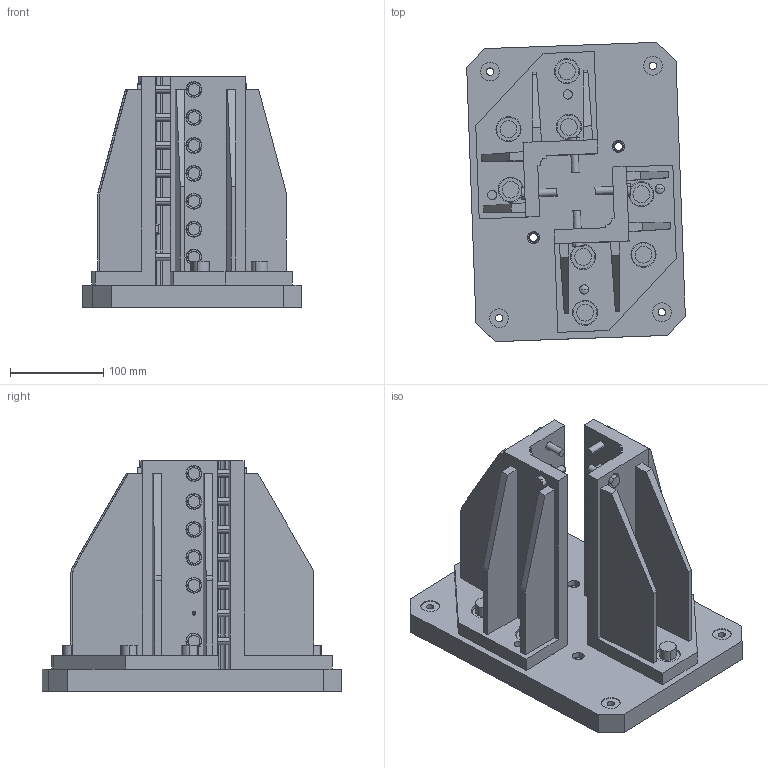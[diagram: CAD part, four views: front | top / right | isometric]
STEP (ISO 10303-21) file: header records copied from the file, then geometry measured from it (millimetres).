
FILE_DESCRIPTION(('STEP AP214'),'1');
FILE_NAME('EGT054_1706185_FLANSCHPLATTE_SW80_SENKRECHT.CATPart.stp','2015-09-14T13:06:19',('3D-Tool'),(' '),'Spatial InterOp 3D',' ',' ');
FILE_SCHEMA(('automotive_design'));
Length unit declared in the file: millimetre
Products named in the file (68): EGT054_1706185_FLANSCHPLATTE_SW80_SENKRECHT|EGT054_FLANSCHPLATTE_SW80_SENKR|Bohrbearbeitung; EGT054_1706185_FLANSCHPLATTE_SW80_SENKRECHT|EGT_208_Winkel_f_Senkr_Anbind_8KT_Rohr_SW80.1|Bohrbearbeitung; EGT054_1706185_FLANSCHPLATTE_SW80_SENKRECHT|EGT_208_Winkel_f_Senkr_Anbind_8KT_Rohr_SW80.2|Rotate.2; 1; 2; 3; 4; 5; 6; 7; 8; 9; 10; 11; 12; 13; 14; 15; 16; 17; 18; 19; 20; 21; 22; 23; 24; 25; 26; 27; 28; 29; 30; 31; 32; 33; 34; 35; 36; 37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
Bounding box: 234.89 x 321.54 x 248 mm (x, y, z)
Volume: 3690529.1 mm3; surface area: 669574.4 mm2
Topology: 63 solids, 63 shells, 1476 faces, 3618 edges, 2392 vertices
Faces by surface type: cylinder 940, plane 318, cone 210, sphere 8
Entity records: 58319 total; most frequent: DIRECTION 8863, CARTESIAN_POINT 7550, ORIENTED_EDGE 7156, AXIS2_PLACEMENT_3D 3725, EDGE_CURVE 3578, VERTEX_POINT 2336, CIRCLE 2181, EDGE_LOOP 1776
